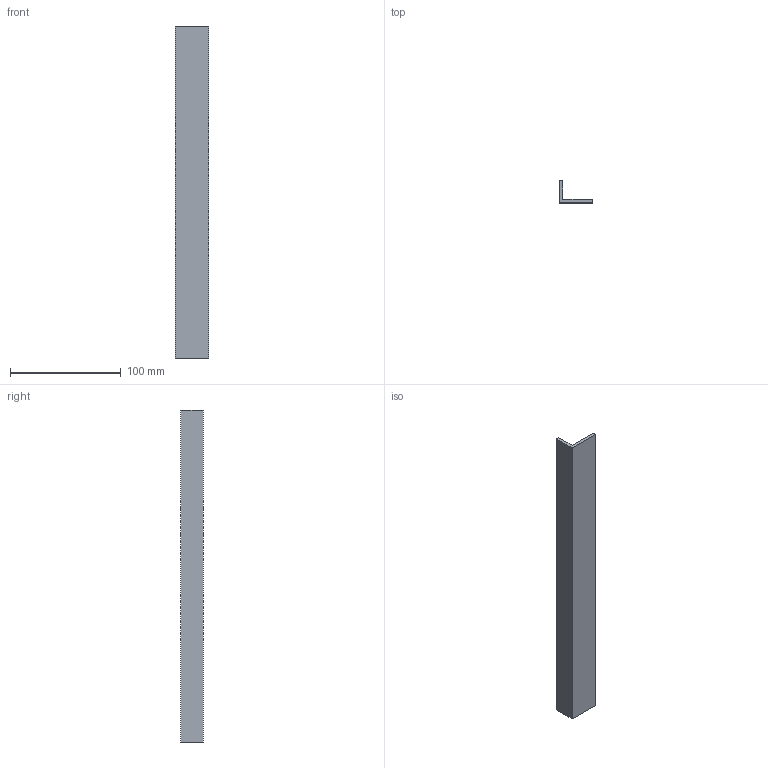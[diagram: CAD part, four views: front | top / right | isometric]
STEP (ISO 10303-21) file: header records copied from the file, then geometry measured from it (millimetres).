
FILE_DESCRIPTION (( 'STEP AP203' ), '1' );
FILE_NAME ('44-3-20-30褒臏.STEP', '2015-07-07T03:58:43', ( '' ), ( '' ), 'SwSTEP 2.0', 'SolidWorks 2013', '' );
FILE_SCHEMA (( 'CONFIG_CONTROL_DESIGN' ));
Length unit declared in the file: millimetre
Products named in the file (1): 44-3-20-30褒臏
Bounding box: 30 x 20 x 300 mm (x, y, z)
Volume: 42300 mm3; surface area: 30282 mm2
Topology: 1 solids, 1 shells, 8 faces, 18 edges, 12 vertices
Faces by surface type: plane 8
Entity records: 299 total; most frequent: CARTESIAN_POINT 39, DIRECTION 36, ORIENTED_EDGE 36, VECTOR 18, EDGE_CURVE 18, LINE 18, VERTEX_POINT 12, AXIS2_PLACEMENT_3D 9
